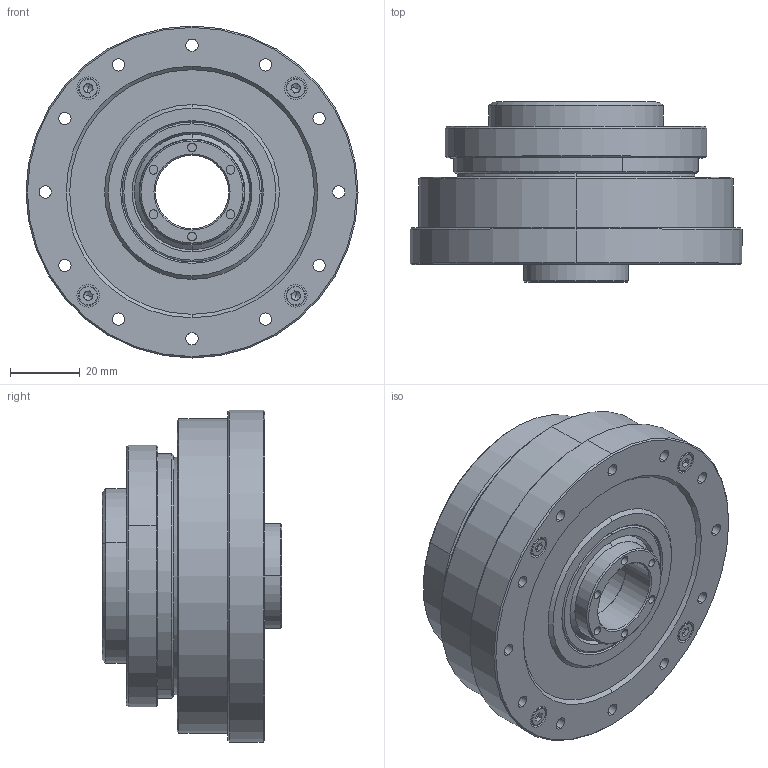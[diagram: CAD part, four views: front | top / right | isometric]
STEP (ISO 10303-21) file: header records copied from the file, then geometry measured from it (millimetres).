
FILE_DESCRIPTION (( 'STEP AP203' ), '1' );
FILE_NAME ('BHS-20-XXX-U-¢ó.STEP', '2019-01-15T03:55:20', ( 'User' ), ( 'China' ), 'SwSTEP 2.0', 'SolidWorks 2015', '' );
FILE_SCHEMA (( 'CONFIG_CONTROL_DESIGN' ));
Length unit declared in the file: millimetre
Products named in the file (1): BHS-20-XXX-U-ｋ
Bounding box: 95 x 51.5 x 95 mm (x, y, z)
Surface area: 43510.6 mm2 (no closed solid volume)
Topology: 0 solids, 24 shells, 315 faces, 852 edges, 538 vertices
Faces by surface type: cylinder 150, plane 81, cone 72, torus 12
Entity records: 9906 total; most frequent: DIRECTION 1914, CARTESIAN_POINT 1690, ORIENTED_EDGE 1418, EDGE_CURVE 836, AXIS2_PLACEMENT_3D 762, VERTEX_POINT 538, CIRCLE 446, EDGE_LOOP 394
